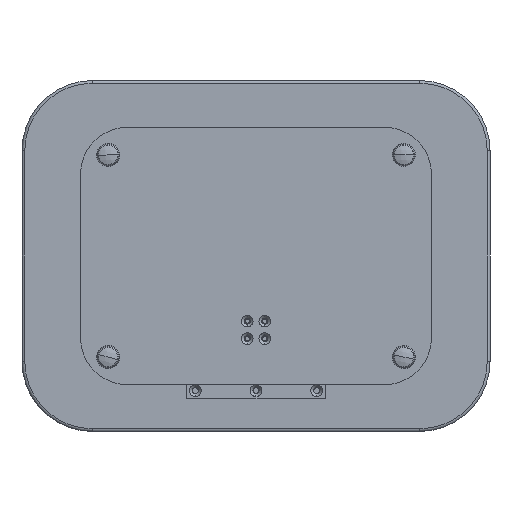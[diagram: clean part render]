
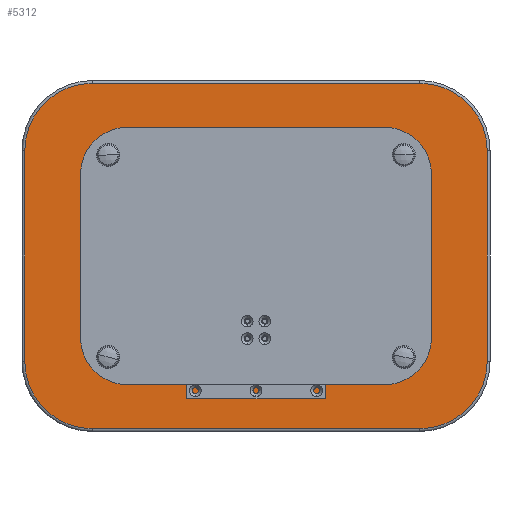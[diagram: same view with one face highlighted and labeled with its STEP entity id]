
A CAD part, front view. The second image highlights one B-rep face of the part: STEP entity #5312.
In plain terms, the highlighted planar face has unit normal (0, -1, 0).
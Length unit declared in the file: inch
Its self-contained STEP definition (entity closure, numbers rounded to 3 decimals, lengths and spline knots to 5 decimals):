
#234 = DIRECTION ( 'NONE',  ( 0., 0., -1. ) ) ;
#809 = CARTESIAN_POINT ( 'NONE',  ( 9.88189, 0., -4.5 ) ) ;
#1000 = EDGE_CURVE ( 'NONE', #11379, #6892, #6116, .T. ) ;
#1003 = CARTESIAN_POINT ( 'NONE',  ( 7., 0., 4.5 ) ) ;
#1111 = VECTOR ( 'NONE', #9041, 39.37008 ) ;
#1362 = AXIS2_PLACEMENT_3D ( 'NONE', #1003, #6709, #10545 ) ;
#1413 = ORIENTED_EDGE ( 'NONE', *, *, #9066, .T. ) ;
#1583 = ORIENTED_EDGE ( 'NONE', *, *, #6243, .T. ) ;
#1855 = DIRECTION ( 'NONE',  ( 0., -1., 0. ) ) ;
#2402 = DIRECTION ( 'NONE',  ( 0., -1., 0. ) ) ;
#2439 = VERTEX_POINT ( 'NONE', #3448 ) ;
#2494 = LINE ( 'NONE', #7232, #6686 ) ;
#2842 = ORIENTED_EDGE ( 'NONE', *, *, #12136, .T. ) ;
#3091 = VERTEX_POINT ( 'NONE', #809 ) ;
#3108 = CARTESIAN_POINT ( 'NONE',  ( -7., 0., 4.5 ) ) ;
#3270 = CARTESIAN_POINT ( 'NONE',  ( 7., 0., -4.5 ) ) ;
#3448 = CARTESIAN_POINT ( 'NONE',  ( -9.88189, 0., -4.5 ) ) ;
#3637 = VERTEX_POINT ( 'NONE', #9474 ) ;
#3853 = CARTESIAN_POINT ( 'NONE',  ( -7., 0., 7.38189 ) ) ;
#3930 = AXIS2_PLACEMENT_3D ( 'NONE', #3108, #7793, #234 ) ;
#4225 = VERTEX_POINT ( 'NONE', #8655 ) ;
#4266 = PLANE ( 'NONE',  #7326 ) ;
#4414 = EDGE_LOOP ( 'NONE', ( #9395, #1413, #10439, #2842, #9012, #1583, #7722, #9582 ) ) ;
#4780 = CARTESIAN_POINT ( 'NONE',  ( 7., 0., -7.38189 ) ) ;
#4821 = CARTESIAN_POINT ( 'NONE',  ( 9.88189, 0., 4.5 ) ) ;
#4915 = CIRCLE ( 'NONE', #3930, 2.88189 ) ;
#5232 = DIRECTION ( 'NONE',  ( 0., 0., -1. ) ) ;
#5305 = DIRECTION ( 'NONE',  ( 0., 0., -1. ) ) ;
#5312 = ADVANCED_FACE ( 'NONE', ( #7945 ), #4266, .T. ) ;
#5709 = DIRECTION ( 'NONE',  ( 0., 0., -1. ) ) ;
#5764 = CIRCLE ( 'NONE', #8548, 2.88189 ) ;
#5776 = LINE ( 'NONE', #4780, #7561 ) ;
#5890 = VERTEX_POINT ( 'NONE', #4821 ) ;
#6061 = LINE ( 'NONE', #7188, #1111 ) ;
#6116 = LINE ( 'NONE', #8922, #10747 ) ;
#6187 = DIRECTION ( 'NONE',  ( 0., -1., 0. ) ) ;
#6243 = EDGE_CURVE ( 'NONE', #5890, #11379, #10506, .T. ) ;
#6258 = EDGE_CURVE ( 'NONE', #6892, #4225, #4915, .T. ) ;
#6686 = VECTOR ( 'NONE', #5232, 39.37008 ) ;
#6709 = DIRECTION ( 'NONE',  ( 0., -1., 0. ) ) ;
#6892 = VERTEX_POINT ( 'NONE', #3853 ) ;
#7188 = CARTESIAN_POINT ( 'NONE',  ( 9.88189, 0., 4.5 ) ) ;
#7232 = CARTESIAN_POINT ( 'NONE',  ( -9.88189, 0., -4.5 ) ) ;
#7326 = AXIS2_PLACEMENT_3D ( 'NONE', #8068, #2402, #11897 ) ;
#7561 = VECTOR ( 'NONE', #10456, 39.37008 ) ;
#7722 = ORIENTED_EDGE ( 'NONE', *, *, #1000, .T. ) ;
#7766 = CIRCLE ( 'NONE', #9948, 2.88189 ) ;
#7793 = DIRECTION ( 'NONE',  ( 0., -1., 0. ) ) ;
#7945 = FACE_OUTER_BOUND ( 'NONE', #4414, .T. ) ;
#8068 = CARTESIAN_POINT ( 'NONE',  ( 0., 0., 0. ) ) ;
#8548 = AXIS2_PLACEMENT_3D ( 'NONE', #10399, #1855, #5709 ) ;
#8655 = CARTESIAN_POINT ( 'NONE',  ( -9.88189, 0., 4.5 ) ) ;
#8922 = CARTESIAN_POINT ( 'NONE',  ( -7., 0., 7.38189 ) ) ;
#9012 = ORIENTED_EDGE ( 'NONE', *, *, #10055, .T. ) ;
#9033 = EDGE_CURVE ( 'NONE', #9847, #3637, #5776, .T. ) ;
#9041 = DIRECTION ( 'NONE',  ( 0., 0., 1. ) ) ;
#9066 = EDGE_CURVE ( 'NONE', #2439, #9847, #5764, .T. ) ;
#9395 = ORIENTED_EDGE ( 'NONE', *, *, #10656, .T. ) ;
#9474 = CARTESIAN_POINT ( 'NONE',  ( 7., 0., -7.38189 ) ) ;
#9582 = ORIENTED_EDGE ( 'NONE', *, *, #6258, .T. ) ;
#9847 = VERTEX_POINT ( 'NONE', #10696 ) ;
#9948 = AXIS2_PLACEMENT_3D ( 'NONE', #3270, #6187, #5305 ) ;
#10055 = EDGE_CURVE ( 'NONE', #3091, #5890, #6061, .T. ) ;
#10399 = CARTESIAN_POINT ( 'NONE',  ( -7., 0., -4.5 ) ) ;
#10439 = ORIENTED_EDGE ( 'NONE', *, *, #9033, .T. ) ;
#10456 = DIRECTION ( 'NONE',  ( 1., 0., 0. ) ) ;
#10506 = CIRCLE ( 'NONE', #1362, 2.88189 ) ;
#10545 = DIRECTION ( 'NONE',  ( 0., 0., -1. ) ) ;
#10656 = EDGE_CURVE ( 'NONE', #4225, #2439, #2494, .T. ) ;
#10696 = CARTESIAN_POINT ( 'NONE',  ( -7., 0., -7.38189 ) ) ;
#10747 = VECTOR ( 'NONE', #10819, 39.37008 ) ;
#10819 = DIRECTION ( 'NONE',  ( -1., 0., 0. ) ) ;
#10981 = CARTESIAN_POINT ( 'NONE',  ( 7., 0., 7.38189 ) ) ;
#11379 = VERTEX_POINT ( 'NONE', #10981 ) ;
#11897 = DIRECTION ( 'NONE',  ( 0., 0., -1. ) ) ;
#12136 = EDGE_CURVE ( 'NONE', #3637, #3091, #7766, .T. ) ;
